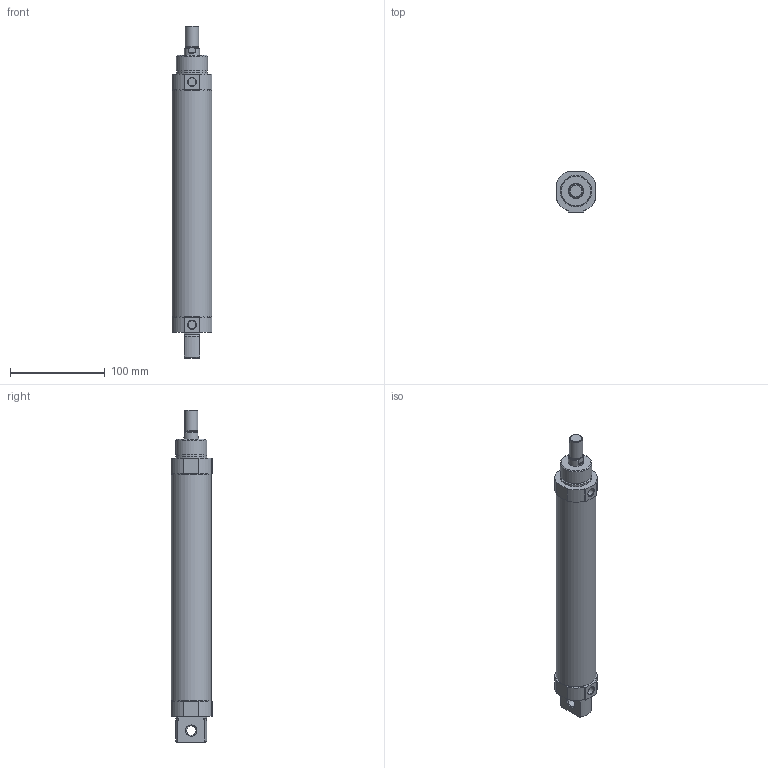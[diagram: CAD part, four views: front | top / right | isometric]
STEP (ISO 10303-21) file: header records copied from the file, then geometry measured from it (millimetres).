
FILE_DESCRIPTION((''),'2;1');
FILE_NAME('I:\3D電子目錄\氣缸\SDA\SDA40\SDA40\SDA40x200.stp','2007-08-06T10:37:20',('Administrator'),(''),'Autodesk Inventor 2008','Autodesk Inventor 2008','');
FILE_SCHEMA(('AUTOMOTIVE_DESIGN { 1 0 10303 214 1 1 1 1 }'));
Length unit declared in the file: millimetre
Products named in the file (1): SDA40X200
Bounding box: 42 x 43.5 x 350 mm (x, y, z)
Volume: 412056.9 mm3; surface area: 46572.2 mm2
Topology: 1 solids, 1 shells, 65 faces, 152 edges, 98 vertices
Faces by surface type: plane 27, cylinder 21, cone 12, torus 3, bspline 2
Full cylindrical faces by diameter (mm): 8.5 x2, 10 x1, 12.6 x1, 14 x1, 16 x1, 33 x2, 41.8 x1
Entity records: 1946 total; most frequent: CARTESIAN_POINT 486, DIRECTION 306, ORIENTED_EDGE 266, EDGE_CURVE 133, AXIS2_PLACEMENT_3D 121, VERTEX_POINT 97, EDGE_LOOP 94, FACE_OUTER_BOUND 65
